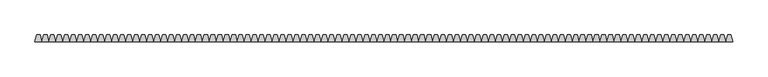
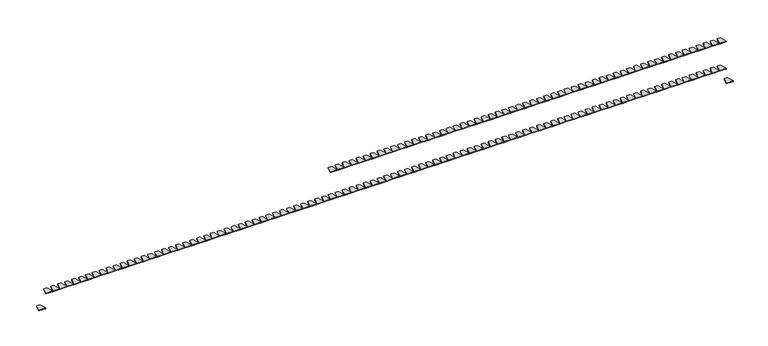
"""IFC4 building model written with IfcOpenShell, lengths in millimetres: duct fitting geometry, Частичная крышка шириной 40 мм - для кабель-канала DLP 65x195 - 2м - белый : 130мм."""

from ifc_helpers import new_model, si_unit, frame, origin, place, context, project, spatial, polyline, outline, extrude, source, transform, mapped, element, save


def duct_fitting_288de5a2(model_context):
    return source(origin(), model_context, "Body", "SweptSolid", [
        extrude(outline(polyline([(974.6410162, 20.0), (980.0, 0.0), (960.0, 0.0), (965.7349077, 20.0), (974.6410162, 20.0)])), frame((0.0, 0.0, -20.0), z_axis=(0.0, 0.0, 1.0), x_axis=(1.0, 0.0, 0.0)), (0.0, 0.0, 1.0), 2.0),
        extrude(outline(polyline([(954.6410162, 20.0), (960.0, 0.0), (940.0, 0.0), (945.7349077, 20.0), (954.6410162, 20.0)])), frame((0.0, 0.0, -20.0), z_axis=(0.0, 0.0, 1.0), x_axis=(1.0, 0.0, 0.0)), (0.0, 0.0, 1.0), 2.0),
        extrude(outline(polyline([(934.6410162, 20.0), (940.0, 0.0), (920.0, 0.0), (925.7349077, 20.0), (934.6410162, 20.0)])), frame((0.0, 0.0, -20.0), z_axis=(0.0, 0.0, 1.0), x_axis=(1.0, 0.0, 0.0)), (0.0, 0.0, 1.0), 2.0),
        extrude(outline(polyline([(914.6410162, 20.0), (920.0, 0.0), (900.0, 0.0), (905.7349077, 20.0), (914.6410162, 20.0)])), frame((0.0, 0.0, -20.0), z_axis=(0.0, 0.0, 1.0), x_axis=(1.0, 0.0, 0.0)), (0.0, 0.0, 1.0), 2.0),
        extrude(outline(polyline([(894.6410162, 20.0), (900.0, 0.0), (880.0, 0.0), (885.7349077, 20.0), (894.6410162, 20.0)])), frame((0.0, 0.0, -20.0), z_axis=(0.0, 0.0, 1.0), x_axis=(1.0, 0.0, 0.0)), (0.0, 0.0, 1.0), 2.0),
        extrude(outline(polyline([(874.6410162, 20.0), (880.0, 0.0), (860.0, 0.0), (865.7349077, 20.0), (874.6410162, 20.0)])), frame((0.0, 0.0, -20.0), z_axis=(0.0, 0.0, 1.0), x_axis=(1.0, 0.0, 0.0)), (0.0, 0.0, 1.0), 2.0),
        extrude(outline(polyline([(854.6410162, 20.0), (860.0, 0.0), (840.0, 0.0), (845.7349077, 20.0), (854.6410162, 20.0)])), frame((0.0, 0.0, -20.0), z_axis=(0.0, 0.0, 1.0), x_axis=(1.0, 0.0, 0.0)), (0.0, 0.0, 1.0), 2.0),
        extrude(outline(polyline([(834.6410162, 20.0), (840.0, 0.0), (820.0, 0.0), (825.7349077, 20.0), (834.6410162, 20.0)])), frame((0.0, 0.0, -20.0), z_axis=(0.0, 0.0, 1.0), x_axis=(1.0, 0.0, 0.0)), (0.0, 0.0, 1.0), 2.0),
        extrude(outline(polyline([(814.6410162, 20.0), (820.0, 0.0), (800.0, 0.0), (805.7349077, 20.0), (814.6410162, 20.0)])), frame((0.0, 0.0, -20.0), z_axis=(0.0, 0.0, 1.0), x_axis=(1.0, 0.0, 0.0)), (0.0, 0.0, 1.0), 2.0),
        extrude(outline(polyline([(794.6410162, 20.0), (800.0, 0.0), (780.0, 0.0), (785.7349077, 20.0), (794.6410162, 20.0)])), frame((0.0, 0.0, -20.0), z_axis=(0.0, 0.0, 1.0), x_axis=(1.0, 0.0, 0.0)), (0.0, 0.0, 1.0), 2.0),
        extrude(outline(polyline([(774.6410162, 20.0), (780.0, 0.0), (760.0, 0.0), (765.7349077, 20.0), (774.6410162, 20.0)])), frame((0.0, 0.0, -20.0), z_axis=(0.0, 0.0, 1.0), x_axis=(1.0, 0.0, 0.0)), (0.0, 0.0, 1.0), 2.0),
        extrude(outline(polyline([(754.6410162, 20.0), (760.0, 0.0), (740.0, 0.0), (745.7349077, 20.0), (754.6410162, 20.0)])), frame((0.0, 0.0, -20.0), z_axis=(0.0, 0.0, 1.0), x_axis=(1.0, 0.0, 0.0)), (0.0, 0.0, 1.0), 2.0),
        extrude(outline(polyline([(734.6410162, 20.0), (740.0, 0.0), (720.0, 0.0), (725.7349077, 20.0), (734.6410162, 20.0)])), frame((0.0, 0.0, -20.0), z_axis=(0.0, 0.0, 1.0), x_axis=(1.0, 0.0, 0.0)), (0.0, 0.0, 1.0), 2.0),
        extrude(outline(polyline([(714.6410162, 20.0), (720.0, 0.0), (700.0, 0.0), (705.7349077, 20.0), (714.6410162, 20.0)])), frame((0.0, 0.0, -20.0), z_axis=(0.0, 0.0, 1.0), x_axis=(1.0, 0.0, 0.0)), (0.0, 0.0, 1.0), 2.0),
        extrude(outline(polyline([(694.6410162, 20.0), (700.0, 0.0), (680.0, 0.0), (685.7349077, 20.0), (694.6410162, 20.0)])), frame((0.0, 0.0, -20.0), z_axis=(0.0, 0.0, 1.0), x_axis=(1.0, 0.0, 0.0)), (0.0, 0.0, 1.0), 2.0),
        extrude(outline(polyline([(674.6410162, 20.0), (680.0, 0.0), (660.0, 0.0), (665.7349077, 20.0), (674.6410162, 20.0)])), frame((0.0, 0.0, -20.0), z_axis=(0.0, 0.0, 1.0), x_axis=(1.0, 0.0, 0.0)), (0.0, 0.0, 1.0), 2.0),
        extrude(outline(polyline([(654.6410162, 20.0), (660.0, 0.0), (640.0, 0.0), (645.7349077, 20.0), (654.6410162, 20.0)])), frame((0.0, 0.0, -20.0), z_axis=(0.0, 0.0, 1.0), x_axis=(1.0, 0.0, 0.0)), (0.0, 0.0, 1.0), 2.0),
        extrude(outline(polyline([(634.6410162, 20.0), (640.0, 0.0), (620.0, 0.0), (625.7349077, 20.0), (634.6410162, 20.0)])), frame((0.0, 0.0, -20.0), z_axis=(0.0, 0.0, 1.0), x_axis=(1.0, 0.0, 0.0)), (0.0, 0.0, 1.0), 2.0),
        extrude(outline(polyline([(614.6410162, 20.0), (620.0, 0.0), (600.0, 0.0), (605.7349077, 20.0), (614.6410162, 20.0)])), frame((0.0, 0.0, -20.0), z_axis=(0.0, 0.0, 1.0), x_axis=(1.0, 0.0, 0.0)), (0.0, 0.0, 1.0), 2.0),
        extrude(outline(polyline([(594.6410162, 20.0), (600.0, 0.0), (580.0, 0.0), (585.7349077, 20.0), (594.6410162, 20.0)])), frame((0.0, 0.0, -20.0), z_axis=(0.0, 0.0, 1.0), x_axis=(1.0, 0.0, 0.0)), (0.0, 0.0, 1.0), 2.0),
        extrude(outline(polyline([(574.6410162, 20.0), (580.0, 0.0), (560.0, 0.0), (565.7349077, 20.0), (574.6410162, 20.0)])), frame((0.0, 0.0, -20.0), z_axis=(0.0, 0.0, 1.0), x_axis=(1.0, 0.0, 0.0)), (0.0, 0.0, 1.0), 2.0),
        extrude(outline(polyline([(554.6410162, 20.0), (560.0, 0.0), (540.0, 0.0), (545.7349077, 20.0), (554.6410162, 20.0)])), frame((0.0, 0.0, -20.0), z_axis=(0.0, 0.0, 1.0), x_axis=(1.0, 0.0, 0.0)), (0.0, 0.0, 1.0), 2.0),
        extrude(outline(polyline([(534.6410162, 20.0), (540.0, 0.0), (520.0, 0.0), (525.7349077, 20.0), (534.6410162, 20.0)])), frame((0.0, 0.0, -20.0), z_axis=(0.0, 0.0, 1.0), x_axis=(1.0, 0.0, 0.0)), (0.0, 0.0, 1.0), 2.0),
        extrude(outline(polyline([(514.6410162, 20.0), (520.0, 0.0), (500.0, 0.0), (505.7349077, 20.0), (514.6410162, 20.0)])), frame((0.0, 0.0, -20.0), z_axis=(0.0, 0.0, 1.0), x_axis=(1.0, 0.0, 0.0)), (0.0, 0.0, 1.0), 2.0),
        extrude(outline(polyline([(494.6410162, 20.0), (500.0, 0.0), (480.0, 0.0), (485.7349077, 20.0), (494.6410162, 20.0)])), frame((0.0, 0.0, -20.0), z_axis=(0.0, 0.0, 1.0), x_axis=(1.0, 0.0, 0.0)), (0.0, 0.0, 1.0), 2.0),
        extrude(outline(polyline([(474.6410162, 20.0), (480.0, 0.0), (460.0, 0.0), (465.7349077, 20.0), (474.6410162, 20.0)])), frame((0.0, 0.0, -20.0), z_axis=(0.0, 0.0, 1.0), x_axis=(1.0, 0.0, 0.0)), (0.0, 0.0, 1.0), 2.0),
        extrude(outline(polyline([(454.6410162, 20.0), (460.0, 0.0), (440.0, 0.0), (445.7349077, 20.0), (454.6410162, 20.0)])), frame((0.0, 0.0, -20.0), z_axis=(0.0, 0.0, 1.0), x_axis=(1.0, 0.0, 0.0)), (0.0, 0.0, 1.0), 2.0),
        extrude(outline(polyline([(434.6410162, 20.0), (440.0, 0.0), (420.0, 0.0), (425.7349077, 20.0), (434.6410162, 20.0)])), frame((0.0, 0.0, -20.0), z_axis=(0.0, 0.0, 1.0), x_axis=(1.0, 0.0, 0.0)), (0.0, 0.0, 1.0), 2.0),
        extrude(outline(polyline([(414.6410162, 20.0), (420.0, 0.0), (400.0, 0.0), (405.7349077, 20.0), (414.6410162, 20.0)])), frame((0.0, 0.0, -20.0), z_axis=(0.0, 0.0, 1.0), x_axis=(1.0, 0.0, 0.0)), (0.0, 0.0, 1.0), 2.0),
        extrude(outline(polyline([(394.6410162, 20.0), (400.0, 0.0), (380.0, 0.0), (385.7349077, 20.0), (394.6410162, 20.0)])), frame((0.0, 0.0, -20.0), z_axis=(0.0, 0.0, 1.0), x_axis=(1.0, 0.0, 0.0)), (0.0, 0.0, 1.0), 2.0),
        extrude(outline(polyline([(374.6410162, 20.0), (380.0, 0.0), (360.0, 0.0), (365.7349077, 20.0), (374.6410162, 20.0)])), frame((0.0, 0.0, -20.0), z_axis=(0.0, 0.0, 1.0), x_axis=(1.0, 0.0, 0.0)), (0.0, 0.0, 1.0), 2.0),
        extrude(outline(polyline([(354.6410162, 20.0), (360.0, 0.0), (340.0, 0.0), (345.7349077, 20.0), (354.6410162, 20.0)])), frame((0.0, 0.0, -20.0), z_axis=(0.0, 0.0, 1.0), x_axis=(1.0, 0.0, 0.0)), (0.0, 0.0, 1.0), 2.0),
        extrude(outline(polyline([(334.6410162, 20.0), (340.0, 0.0), (320.0, 0.0), (325.7349077, 20.0), (334.6410162, 20.0)])), frame((0.0, 0.0, -20.0), z_axis=(0.0, 0.0, 1.0), x_axis=(1.0, 0.0, 0.0)), (0.0, 0.0, 1.0), 2.0),
        extrude(outline(polyline([(314.6410162, 20.0), (320.0, 0.0), (300.0, 0.0), (305.7349077, 20.0), (314.6410162, 20.0)])), frame((0.0, 0.0, -20.0), z_axis=(0.0, 0.0, 1.0), x_axis=(1.0, 0.0, 0.0)), (0.0, 0.0, 1.0), 2.0),
        extrude(outline(polyline([(294.6410162, 20.0), (300.0, 0.0), (280.0, 0.0), (285.7349077, 20.0), (294.6410162, 20.0)])), frame((0.0, 0.0, -20.0), z_axis=(0.0, 0.0, 1.0), x_axis=(1.0, 0.0, 0.0)), (0.0, 0.0, 1.0), 2.0),
        extrude(outline(polyline([(274.6410162, 20.0), (280.0, 0.0), (260.0, 0.0), (265.7349077, 20.0), (274.6410162, 20.0)])), frame((0.0, 0.0, -20.0), z_axis=(0.0, 0.0, 1.0), x_axis=(1.0, 0.0, 0.0)), (0.0, 0.0, 1.0), 2.0),
        extrude(outline(polyline([(254.6410162, 20.0), (260.0, 0.0), (240.0, 0.0), (245.7349077, 20.0), (254.6410162, 20.0)])), frame((0.0, 0.0, -20.0), z_axis=(0.0, 0.0, 1.0), x_axis=(1.0, 0.0, 0.0)), (0.0, 0.0, 1.0), 2.0),
        extrude(outline(polyline([(234.6410162, 20.0), (240.0, 0.0), (220.0, 0.0), (225.7349077, 20.0), (234.6410162, 20.0)])), frame((0.0, 0.0, -20.0), z_axis=(0.0, 0.0, 1.0), x_axis=(1.0, 0.0, 0.0)), (0.0, 0.0, 1.0), 2.0),
        extrude(outline(polyline([(214.6410162, 20.0), (220.0, 0.0), (200.0, 0.0), (205.7349077, 20.0), (214.6410162, 20.0)])), frame((0.0, 0.0, -20.0), z_axis=(0.0, 0.0, 1.0), x_axis=(1.0, 0.0, 0.0)), (0.0, 0.0, 1.0), 2.0),
        extrude(outline(polyline([(194.6410162, 20.0), (200.0, 0.0), (180.0, 0.0), (185.7349077, 20.0), (194.6410162, 20.0)])), frame((0.0, 0.0, -20.0), z_axis=(0.0, 0.0, 1.0), x_axis=(1.0, 0.0, 0.0)), (0.0, 0.0, 1.0), 2.0),
        extrude(outline(polyline([(174.6410162, 20.0), (180.0, 0.0), (160.0, 0.0), (165.7349077, 20.0), (174.6410162, 20.0)])), frame((0.0, 0.0, -20.0), z_axis=(0.0, 0.0, 1.0), x_axis=(1.0, 0.0, 0.0)), (0.0, 0.0, 1.0), 2.0),
        extrude(outline(polyline([(154.6410162, 20.0), (160.0, 0.0), (140.0, 0.0), (145.7349077, 20.0), (154.6410162, 20.0)])), frame((0.0, 0.0, -20.0), z_axis=(0.0, 0.0, 1.0), x_axis=(1.0, 0.0, 0.0)), (0.0, 0.0, 1.0), 2.0),
        extrude(outline(polyline([(134.6410162, 20.0), (140.0, 0.0), (120.0, 0.0), (125.7349077, 20.0), (134.6410162, 20.0)])), frame((0.0, 0.0, -20.0), z_axis=(0.0, 0.0, 1.0), x_axis=(1.0, 0.0, 0.0)), (0.0, 0.0, 1.0), 2.0),
        extrude(outline(polyline([(114.6410162, 20.0), (120.0, 0.0), (100.0, 0.0), (105.7349077, 20.0), (114.6410162, 20.0)])), frame((0.0, 0.0, -20.0), z_axis=(0.0, 0.0, 1.0), x_axis=(1.0, 0.0, 0.0)), (0.0, 0.0, 1.0), 2.0),
        extrude(outline(polyline([(94.6410162, 20.0), (100.0, 0.0), (80.0, 0.0), (85.7349077, 20.0), (94.6410162, 20.0)])), frame((0.0, 0.0, -20.0), z_axis=(0.0, 0.0, 1.0), x_axis=(1.0, 0.0, 0.0)), (0.0, 0.0, 1.0), 2.0),
        extrude(outline(polyline([(74.6410162, 20.0), (80.0, 0.0), (60.0, 0.0), (65.7349077, 20.0), (74.6410162, 20.0)])), frame((0.0, 0.0, -20.0), z_axis=(0.0, 0.0, 1.0), x_axis=(1.0, 0.0, 0.0)), (0.0, 0.0, 1.0), 2.0),
        extrude(outline(polyline([(54.6410162, 20.0), (60.0, 0.0), (40.0, 0.0), (45.7349077, 20.0), (54.6410162, 20.0)])), frame((0.0, 0.0, -20.0), z_axis=(0.0, 0.0, 1.0), x_axis=(1.0, 0.0, 0.0)), (0.0, 0.0, 1.0), 2.0),
        extrude(outline(polyline([(34.6410162, 20.0), (40.0, 0.0), (20.0, 0.0), (25.7349077, 20.0), (34.6410162, 20.0)])), frame((0.0, 0.0, -20.0), z_axis=(0.0, 0.0, 1.0), x_axis=(1.0, 0.0, 0.0)), (0.0, 0.0, 1.0), 2.0),
        extrude(outline(polyline([(14.6410162, 20.0), (20.0, 0.0), (0.0, 0.0), (5.7349077, 20.0), (14.6410162, 20.0)])), frame((0.0, 0.0, -20.0), z_axis=(0.0, 0.0, 1.0), x_axis=(1.0, 0.0, 0.0)), (0.0, 0.0, 1.0), 2.0),
        extrude(outline(polyline([(-5.3589838, 20.0), (0.0, 0.0), (-20.0, 0.0), (-14.2650923, 20.0), (-5.3589838, 20.0)])), frame((0.0, 0.0, -20.0), z_axis=(0.0, 0.0, 1.0), x_axis=(1.0, 0.0, 0.0)), (0.0, 0.0, 1.0), 2.0),
        extrude(outline(polyline([(-25.3589838, 20.0), (-20.0, 0.0), (-40.0, 0.0), (-34.2650923, 20.0), (-25.3589838, 20.0)])), frame((0.0, 0.0, -20.0), z_axis=(0.0, 0.0, 1.0), x_axis=(1.0, 0.0, 0.0)), (0.0, 0.0, 1.0), 2.0),
        extrude(outline(polyline([(-45.3589838, 20.0), (-40.0, 0.0), (-60.0, 0.0), (-54.2650923, 20.0), (-45.3589838, 20.0)])), frame((0.0, 0.0, -20.0), z_axis=(0.0, 0.0, 1.0), x_axis=(1.0, 0.0, 0.0)), (0.0, 0.0, 1.0), 2.0),
        extrude(outline(polyline([(-65.3589838, 20.0), (-60.0, 0.0), (-80.0, 0.0), (-74.2650923, 20.0), (-65.3589838, 20.0)])), frame((0.0, 0.0, -20.0), z_axis=(0.0, 0.0, 1.0), x_axis=(1.0, 0.0, 0.0)), (0.0, 0.0, 1.0), 2.0),
        extrude(outline(polyline([(-85.3589838, 20.0), (-80.0, 0.0), (-100.0, 0.0), (-94.2650923, 20.0), (-85.3589838, 20.0)])), frame((0.0, 0.0, -20.0), z_axis=(0.0, 0.0, 1.0), x_axis=(1.0, 0.0, 0.0)), (0.0, 0.0, 1.0), 2.0),
        extrude(outline(polyline([(-105.3589838, 20.0), (-100.0, 0.0), (-120.0, 0.0), (-114.2650923, 20.0), (-105.3589838, 20.0)])), frame((0.0, 0.0, -20.0), z_axis=(0.0, 0.0, 1.0), x_axis=(1.0, 0.0, 0.0)), (0.0, 0.0, 1.0), 2.0),
        extrude(outline(polyline([(-125.3589838, 20.0), (-120.0, 0.0), (-140.0, 0.0), (-134.2650923, 20.0), (-125.3589838, 20.0)])), frame((0.0, 0.0, -20.0), z_axis=(0.0, 0.0, 1.0), x_axis=(1.0, 0.0, 0.0)), (0.0, 0.0, 1.0), 2.0),
        extrude(outline(polyline([(-145.3589838, 20.0), (-140.0, 0.0), (-160.0, 0.0), (-154.2650923, 20.0), (-145.3589838, 20.0)])), frame((0.0, 0.0, -20.0), z_axis=(0.0, 0.0, 1.0), x_axis=(1.0, 0.0, 0.0)), (0.0, 0.0, 1.0), 2.0),
        extrude(outline(polyline([(-165.3589838, 20.0), (-160.0, 0.0), (-180.0, 0.0), (-174.2650923, 20.0), (-165.3589838, 20.0)])), frame((0.0, 0.0, -20.0), z_axis=(0.0, 0.0, 1.0), x_axis=(1.0, 0.0, 0.0)), (0.0, 0.0, 1.0), 2.0),
        extrude(outline(polyline([(-185.3589838, 20.0), (-180.0, 0.0), (-200.0, 0.0), (-194.2650923, 20.0), (-185.3589838, 20.0)])), frame((0.0, 0.0, -20.0), z_axis=(0.0, 0.0, 1.0), x_axis=(1.0, 0.0, 0.0)), (0.0, 0.0, 1.0), 2.0),
        extrude(outline(polyline([(-205.3589838, 20.0), (-200.0, 0.0), (-220.0, 0.0), (-214.2650923, 20.0), (-205.3589838, 20.0)])), frame((0.0, 0.0, -20.0), z_axis=(0.0, 0.0, 1.0), x_axis=(1.0, 0.0, 0.0)), (0.0, 0.0, 1.0), 2.0),
        extrude(outline(polyline([(-225.3589838, 20.0), (-220.0, 0.0), (-240.0, 0.0), (-234.2650923, 20.0), (-225.3589838, 20.0)])), frame((0.0, 0.0, -20.0), z_axis=(0.0, 0.0, 1.0), x_axis=(1.0, 0.0, 0.0)), (0.0, 0.0, 1.0), 2.0),
        extrude(outline(polyline([(-245.3589838, 20.0), (-240.0, 0.0), (-260.0, 0.0), (-254.2650923, 20.0), (-245.3589838, 20.0)])), frame((0.0, 0.0, -20.0), z_axis=(0.0, 0.0, 1.0), x_axis=(1.0, 0.0, 0.0)), (0.0, 0.0, 1.0), 2.0),
        extrude(outline(polyline([(-265.3589838, 20.0), (-260.0, 0.0), (-280.0, 0.0), (-274.2650923, 20.0), (-265.3589838, 20.0)])), frame((0.0, 0.0, -20.0), z_axis=(0.0, 0.0, 1.0), x_axis=(1.0, 0.0, 0.0)), (0.0, 0.0, 1.0), 2.0),
        extrude(outline(polyline([(-285.3589838, 20.0), (-280.0, 0.0), (-300.0, 0.0), (-294.2650923, 20.0), (-285.3589838, 20.0)])), frame((0.0, 0.0, -20.0), z_axis=(0.0, 0.0, 1.0), x_axis=(1.0, 0.0, 0.0)), (0.0, 0.0, 1.0), 2.0),
        extrude(outline(polyline([(-305.3589838, 20.0), (-300.0, 0.0), (-320.0, 0.0), (-314.2650923, 20.0), (-305.3589838, 20.0)])), frame((0.0, 0.0, -20.0), z_axis=(0.0, 0.0, 1.0), x_axis=(1.0, 0.0, 0.0)), (0.0, 0.0, 1.0), 2.0),
        extrude(outline(polyline([(-325.3589838, 20.0), (-320.0, 0.0), (-340.0, 0.0), (-334.2650923, 20.0), (-325.3589838, 20.0)])), frame((0.0, 0.0, -20.0), z_axis=(0.0, 0.0, 1.0), x_axis=(1.0, 0.0, 0.0)), (0.0, 0.0, 1.0), 2.0),
        extrude(outline(polyline([(-345.3589838, 20.0), (-340.0, 0.0), (-360.0, 0.0), (-354.2650923, 20.0), (-345.3589838, 20.0)])), frame((0.0, 0.0, -20.0), z_axis=(0.0, 0.0, 1.0), x_axis=(1.0, 0.0, 0.0)), (0.0, 0.0, 1.0), 2.0),
        extrude(outline(polyline([(-365.3589838, 20.0), (-360.0, 0.0), (-380.0, 0.0), (-374.2650923, 20.0), (-365.3589838, 20.0)])), frame((0.0, 0.0, -20.0), z_axis=(0.0, 0.0, 1.0), x_axis=(1.0, 0.0, 0.0)), (0.0, 0.0, 1.0), 2.0),
        extrude(outline(polyline([(-385.3589838, 20.0), (-380.0, 0.0), (-400.0, 0.0), (-394.2650923, 20.0), (-385.3589838, 20.0)])), frame((0.0, 0.0, -20.0), z_axis=(0.0, 0.0, 1.0), x_axis=(1.0, 0.0, 0.0)), (0.0, 0.0, 1.0), 2.0),
        extrude(outline(polyline([(-405.3589838, 20.0), (-400.0, 0.0), (-420.0, 0.0), (-414.2650923, 20.0), (-405.3589838, 20.0)])), frame((0.0, 0.0, -20.0), z_axis=(0.0, 0.0, 1.0), x_axis=(1.0, 0.0, 0.0)), (0.0, 0.0, 1.0), 2.0),
        extrude(outline(polyline([(-425.3589838, 20.0), (-420.0, 0.0), (-440.0, 0.0), (-434.2650923, 20.0), (-425.3589838, 20.0)])), frame((0.0, 0.0, -20.0), z_axis=(0.0, 0.0, 1.0), x_axis=(1.0, 0.0, 0.0)), (0.0, 0.0, 1.0), 2.0),
        extrude(outline(polyline([(-445.3589838, 20.0), (-440.0, 0.0), (-460.0, 0.0), (-454.2650923, 20.0), (-445.3589838, 20.0)])), frame((0.0, 0.0, -20.0), z_axis=(0.0, 0.0, 1.0), x_axis=(1.0, 0.0, 0.0)), (0.0, 0.0, 1.0), 2.0),
        extrude(outline(polyline([(-465.3589838, 20.0), (-460.0, 0.0), (-480.0, 0.0), (-474.2650923, 20.0), (-465.3589838, 20.0)])), frame((0.0, 0.0, -20.0), z_axis=(0.0, 0.0, 1.0), x_axis=(1.0, 0.0, 0.0)), (0.0, 0.0, 1.0), 2.0),
        extrude(outline(polyline([(-485.3589838, 20.0), (-480.0, 0.0), (-500.0, 0.0), (-494.2650923, 20.0), (-485.3589838, 20.0)])), frame((0.0, 0.0, -20.0), z_axis=(0.0, 0.0, 1.0), x_axis=(1.0, 0.0, 0.0)), (0.0, 0.0, 1.0), 2.0),
        extrude(outline(polyline([(-505.3589838, 20.0), (-500.0, 0.0), (-520.0, 0.0), (-514.2650923, 20.0), (-505.3589838, 20.0)])), frame((0.0, 0.0, -20.0), z_axis=(0.0, 0.0, 1.0), x_axis=(1.0, 0.0, 0.0)), (0.0, 0.0, 1.0), 2.0),
        extrude(outline(polyline([(-525.3589838, 20.0), (-520.0, 0.0), (-540.0, 0.0), (-534.2650923, 20.0), (-525.3589838, 20.0)])), frame((0.0, 0.0, -20.0), z_axis=(0.0, 0.0, 1.0), x_axis=(1.0, 0.0, 0.0)), (0.0, 0.0, 1.0), 2.0),
        extrude(outline(polyline([(-545.3589838, 20.0), (-540.0, 0.0), (-560.0, 0.0), (-554.2650923, 20.0), (-545.3589838, 20.0)])), frame((0.0, 0.0, -20.0), z_axis=(0.0, 0.0, 1.0), x_axis=(1.0, 0.0, 0.0)), (0.0, 0.0, 1.0), 2.0),
        extrude(outline(polyline([(-565.3589838, 20.0), (-560.0, 0.0), (-580.0, 0.0), (-574.2650923, 20.0), (-565.3589838, 20.0)])), frame((0.0, 0.0, -20.0), z_axis=(0.0, 0.0, 1.0), x_axis=(1.0, 0.0, 0.0)), (0.0, 0.0, 1.0), 2.0),
        extrude(outline(polyline([(-585.3589838, 20.0), (-580.0, 0.0), (-600.0, 0.0), (-594.2650923, 20.0), (-585.3589838, 20.0)])), frame((0.0, 0.0, -20.0), z_axis=(0.0, 0.0, 1.0), x_axis=(1.0, 0.0, 0.0)), (0.0, 0.0, 1.0), 2.0),
        extrude(outline(polyline([(-605.3589838, 20.0), (-600.0, 0.0), (-620.0, 0.0), (-614.2650923, 20.0), (-605.3589838, 20.0)])), frame((0.0, 0.0, -20.0), z_axis=(0.0, 0.0, 1.0), x_axis=(1.0, 0.0, 0.0)), (0.0, 0.0, 1.0), 2.0),
        extrude(outline(polyline([(-625.3589838, 20.0), (-620.0, 0.0), (-640.0, 0.0), (-634.2650923, 20.0), (-625.3589838, 20.0)])), frame((0.0, 0.0, -20.0), z_axis=(0.0, 0.0, 1.0), x_axis=(1.0, 0.0, 0.0)), (0.0, 0.0, 1.0), 2.0),
        extrude(outline(polyline([(-645.3589838, 20.0), (-640.0, 0.0), (-660.0, 0.0), (-654.2650923, 20.0), (-645.3589838, 20.0)])), frame((0.0, 0.0, -20.0), z_axis=(0.0, 0.0, 1.0), x_axis=(1.0, 0.0, 0.0)), (0.0, 0.0, 1.0), 2.0),
        extrude(outline(polyline([(-665.3589838, 20.0), (-660.0, 0.0), (-680.0, 0.0), (-674.2650923, 20.0), (-665.3589838, 20.0)])), frame((0.0, 0.0, -20.0), z_axis=(0.0, 0.0, 1.0), x_axis=(1.0, 0.0, 0.0)), (0.0, 0.0, 1.0), 2.0),
        extrude(outline(polyline([(-685.3589838, 20.0), (-680.0, 0.0), (-700.0, 0.0), (-694.2650923, 20.0), (-685.3589838, 20.0)])), frame((0.0, 0.0, -20.0), z_axis=(0.0, 0.0, 1.0), x_axis=(1.0, 0.0, 0.0)), (0.0, 0.0, 1.0), 2.0),
        extrude(outline(polyline([(-705.3589838, 20.0), (-700.0, 0.0), (-720.0, 0.0), (-714.2650923, 20.0), (-705.3589838, 20.0)])), frame((0.0, 0.0, -20.0), z_axis=(0.0, 0.0, 1.0), x_axis=(1.0, 0.0, 0.0)), (0.0, 0.0, 1.0), 2.0),
        extrude(outline(polyline([(-725.3589838, 20.0), (-720.0, 0.0), (-740.0, 0.0), (-734.2650923, 20.0), (-725.3589838, 20.0)])), frame((0.0, 0.0, -20.0), z_axis=(0.0, 0.0, 1.0), x_axis=(1.0, 0.0, 0.0)), (0.0, 0.0, 1.0), 2.0),
        extrude(outline(polyline([(-745.3589838, 20.0), (-740.0, 0.0), (-760.0, 0.0), (-754.2650923, 20.0), (-745.3589838, 20.0)])), frame((0.0, 0.0, -20.0), z_axis=(0.0, 0.0, 1.0), x_axis=(1.0, 0.0, 0.0)), (0.0, 0.0, 1.0), 2.0),
        extrude(outline(polyline([(-765.3589838, 20.0), (-760.0, 0.0), (-780.0, 0.0), (-774.2650923, 20.0), (-765.3589838, 20.0)])), frame((0.0, 0.0, -20.0), z_axis=(0.0, 0.0, 1.0), x_axis=(1.0, 0.0, 0.0)), (0.0, 0.0, 1.0), 2.0),
        extrude(outline(polyline([(-785.3589838, 20.0), (-780.0, 0.0), (-800.0, 0.0), (-794.2650923, 20.0), (-785.3589838, 20.0)])), frame((0.0, 0.0, -20.0), z_axis=(0.0, 0.0, 1.0), x_axis=(1.0, 0.0, 0.0)), (0.0, 0.0, 1.0), 2.0),
        extrude(outline(polyline([(-805.3589838, 20.0), (-800.0, 0.0), (-820.0, 0.0), (-814.2650923, 20.0), (-805.3589838, 20.0)])), frame((0.0, 0.0, -20.0), z_axis=(0.0, 0.0, 1.0), x_axis=(1.0, 0.0, 0.0)), (0.0, 0.0, 1.0), 2.0),
        extrude(outline(polyline([(-825.3589838, 20.0), (-820.0, 0.0), (-840.0, 0.0), (-834.2650923, 20.0), (-825.3589838, 20.0)])), frame((0.0, 0.0, -20.0), z_axis=(0.0, 0.0, 1.0), x_axis=(1.0, 0.0, 0.0)), (0.0, 0.0, 1.0), 2.0),
        extrude(outline(polyline([(-845.3589838, 20.0), (-840.0, 0.0), (-860.0, 0.0), (-854.2650923, 20.0), (-845.3589838, 20.0)])), frame((0.0, 0.0, -20.0), z_axis=(0.0, 0.0, 1.0), x_axis=(1.0, 0.0, 0.0)), (0.0, 0.0, 1.0), 2.0),
        extrude(outline(polyline([(-865.3589838, 20.0), (-860.0, 0.0), (-880.0, 0.0), (-874.2650923, 20.0), (-865.3589838, 20.0)])), frame((0.0, 0.0, -20.0), z_axis=(0.0, 0.0, 1.0), x_axis=(1.0, 0.0, 0.0)), (0.0, 0.0, 1.0), 2.0),
        extrude(outline(polyline([(-885.3589838, 20.0), (-880.0, 0.0), (-900.0, 0.0), (-894.2650923, 20.0), (-885.3589838, 20.0)])), frame((0.0, 0.0, -20.0), z_axis=(0.0, 0.0, 1.0), x_axis=(1.0, 0.0, 0.0)), (0.0, 0.0, 1.0), 2.0),
        extrude(outline(polyline([(-905.3589838, 20.0), (-900.0, 0.0), (-920.0, 0.0), (-914.2650923, 20.0), (-905.3589838, 20.0)])), frame((0.0, 0.0, -20.0), z_axis=(0.0, 0.0, 1.0), x_axis=(1.0, 0.0, 0.0)), (0.0, 0.0, 1.0), 2.0),
        extrude(outline(polyline([(-925.3589838, 20.0), (-920.0, 0.0), (-940.0, 0.0), (-934.2650923, 20.0), (-925.3589838, 20.0)])), frame((0.0, 0.0, -20.0), z_axis=(0.0, 0.0, 1.0), x_axis=(1.0, 0.0, 0.0)), (0.0, 0.0, 1.0), 2.0),
        extrude(outline(polyline([(-945.3589838, 20.0), (-940.0, 0.0), (-960.0, 0.0), (-954.2650923, 20.0), (-945.3589838, 20.0)])), frame((0.0, 0.0, -20.0), z_axis=(0.0, 0.0, 1.0), x_axis=(1.0, 0.0, 0.0)), (0.0, 0.0, 1.0), 2.0),
        extrude(outline(polyline([(-965.3589838, 20.0), (-960.0, 0.0), (-980.0, 0.0), (-974.2650923, 20.0), (-965.3589838, 20.0)])), frame((0.0, 0.0, -20.0), z_axis=(0.0, 0.0, 1.0), x_axis=(1.0, 0.0, 0.0)), (0.0, 0.0, 1.0), 2.0),
        extrude(outline(polyline([(994.6410162, 20.0), (1000.0, 0.0), (980.0, 0.0), (985.7349077, 20.0), (994.6410162, 20.0)])), frame((0.0, 0.0, -65.0), z_axis=(0.0, 0.0, 1.0), x_axis=(1.0, 0.0, 0.0)), (0.0, 0.0, 1.0), 2.0),
        extrude(outline(polyline([(-985.3589838, 20.0), (-980.0, 0.0), (-1000.0, 0.0), (-994.2650923, 20.0), (-985.3589838, 20.0)])), frame((0.0, 0.0, -65.0), z_axis=(0.0, 0.0, 1.0), x_axis=(1.0, 0.0, 0.0)), (0.0, 0.0, 1.0), 2.0),
        extrude(outline(polyline([(974.6410162, 20.0), (980.0, 0.0), (960.0, 0.0), (965.7349077, 20.0), (974.6410162, 20.0)])), frame((0.0, 0.0, 63.0), z_axis=(0.0, 0.0, 1.0), x_axis=(1.0, 0.0, 0.0)), (0.0, 0.0, 1.0), 2.0),
        extrude(outline(polyline([(954.6410162, 20.0), (960.0, 0.0), (940.0, 0.0), (945.7349077, 20.0), (954.6410162, 20.0)])), frame((0.0, 0.0, 63.0), z_axis=(0.0, 0.0, 1.0), x_axis=(1.0, 0.0, 0.0)), (0.0, 0.0, 1.0), 2.0),
        extrude(outline(polyline([(934.6410162, 20.0), (940.0, 0.0), (920.0, 0.0), (925.7349077, 20.0), (934.6410162, 20.0)])), frame((0.0, 0.0, 63.0), z_axis=(0.0, 0.0, 1.0), x_axis=(1.0, 0.0, 0.0)), (0.0, 0.0, 1.0), 2.0),
        extrude(outline(polyline([(914.6410162, 20.0), (920.0, 0.0), (900.0, 0.0), (905.7349077, 20.0), (914.6410162, 20.0)])), frame((0.0, 0.0, 63.0), z_axis=(0.0, 0.0, 1.0), x_axis=(1.0, 0.0, 0.0)), (0.0, 0.0, 1.0), 2.0),
        extrude(outline(polyline([(894.6410162, 20.0), (900.0, 0.0), (880.0, 0.0), (885.7349077, 20.0), (894.6410162, 20.0)])), frame((0.0, 0.0, 63.0), z_axis=(0.0, 0.0, 1.0), x_axis=(1.0, 0.0, 0.0)), (0.0, 0.0, 1.0), 2.0),
        extrude(outline(polyline([(874.6410162, 20.0), (880.0, 0.0), (860.0, 0.0), (865.7349077, 20.0), (874.6410162, 20.0)])), frame((0.0, 0.0, 63.0), z_axis=(0.0, 0.0, 1.0), x_axis=(1.0, 0.0, 0.0)), (0.0, 0.0, 1.0), 2.0),
        extrude(outline(polyline([(854.6410162, 20.0), (860.0, 0.0), (840.0, 0.0), (845.7349077, 20.0), (854.6410162, 20.0)])), frame((0.0, 0.0, 63.0), z_axis=(0.0, 0.0, 1.0), x_axis=(1.0, 0.0, 0.0)), (0.0, 0.0, 1.0), 2.0),
        extrude(outline(polyline([(834.6410162, 20.0), (840.0, 0.0), (820.0, 0.0), (825.7349077, 20.0), (834.6410162, 20.0)])), frame((0.0, 0.0, 63.0), z_axis=(0.0, 0.0, 1.0), x_axis=(1.0, 0.0, 0.0)), (0.0, 0.0, 1.0), 2.0),
        extrude(outline(polyline([(814.6410162, 20.0), (820.0, 0.0), (800.0, 0.0), (805.7349077, 20.0), (814.6410162, 20.0)])), frame((0.0, 0.0, 63.0), z_axis=(0.0, 0.0, 1.0), x_axis=(1.0, 0.0, 0.0)), (0.0, 0.0, 1.0), 2.0),
        extrude(outline(polyline([(794.6410162, 20.0), (800.0, 0.0), (780.0, 0.0), (785.7349077, 20.0), (794.6410162, 20.0)])), frame((0.0, 0.0, 63.0), z_axis=(0.0, 0.0, 1.0), x_axis=(1.0, 0.0, 0.0)), (0.0, 0.0, 1.0), 2.0),
        extrude(outline(polyline([(774.6410162, 20.0), (780.0, 0.0), (760.0, 0.0), (765.7349077, 20.0), (774.6410162, 20.0)])), frame((0.0, 0.0, 63.0), z_axis=(0.0, 0.0, 1.0), x_axis=(1.0, 0.0, 0.0)), (0.0, 0.0, 1.0), 2.0),
        extrude(outline(polyline([(754.6410162, 20.0), (760.0, 0.0), (740.0, 0.0), (745.7349077, 20.0), (754.6410162, 20.0)])), frame((0.0, 0.0, 63.0), z_axis=(0.0, 0.0, 1.0), x_axis=(1.0, 0.0, 0.0)), (0.0, 0.0, 1.0), 2.0),
        extrude(outline(polyline([(734.6410162, 20.0), (740.0, 0.0), (720.0, 0.0), (725.7349077, 20.0), (734.6410162, 20.0)])), frame((0.0, 0.0, 63.0), z_axis=(0.0, 0.0, 1.0), x_axis=(1.0, 0.0, 0.0)), (0.0, 0.0, 1.0), 2.0),
        extrude(outline(polyline([(714.6410162, 20.0), (720.0, 0.0), (700.0, 0.0), (705.7349077, 20.0), (714.6410162, 20.0)])), frame((0.0, 0.0, 63.0), z_axis=(0.0, 0.0, 1.0), x_axis=(1.0, 0.0, 0.0)), (0.0, 0.0, 1.0), 2.0),
        extrude(outline(polyline([(694.6410162, 20.0), (700.0, 0.0), (680.0, 0.0), (685.7349077, 20.0), (694.6410162, 20.0)])), frame((0.0, 0.0, 63.0), z_axis=(0.0, 0.0, 1.0), x_axis=(1.0, 0.0, 0.0)), (0.0, 0.0, 1.0), 2.0),
        extrude(outline(polyline([(674.6410162, 20.0), (680.0, 0.0), (660.0, 0.0), (665.7349077, 20.0), (674.6410162, 20.0)])), frame((0.0, 0.0, 63.0), z_axis=(0.0, 0.0, 1.0), x_axis=(1.0, 0.0, 0.0)), (0.0, 0.0, 1.0), 2.0),
        extrude(outline(polyline([(654.6410162, 20.0), (660.0, 0.0), (640.0, 0.0), (645.7349077, 20.0), (654.6410162, 20.0)])), frame((0.0, 0.0, 63.0), z_axis=(0.0, 0.0, 1.0), x_axis=(1.0, 0.0, 0.0)), (0.0, 0.0, 1.0), 2.0),
        extrude(outline(polyline([(634.6410162, 20.0), (640.0, 0.0), (620.0, 0.0), (625.7349077, 20.0), (634.6410162, 20.0)])), frame((0.0, 0.0, 63.0), z_axis=(0.0, 0.0, 1.0), x_axis=(1.0, 0.0, 0.0)), (0.0, 0.0, 1.0), 2.0),
        extrude(outline(polyline([(614.6410162, 20.0), (620.0, 0.0), (600.0, 0.0), (605.7349077, 20.0), (614.6410162, 20.0)])), frame((0.0, 0.0, 63.0), z_axis=(0.0, 0.0, 1.0), x_axis=(1.0, 0.0, 0.0)), (0.0, 0.0, 1.0), 2.0),
        extrude(outline(polyline([(594.6410162, 20.0), (600.0, 0.0), (580.0, 0.0), (585.7349077, 20.0), (594.6410162, 20.0)])), frame((0.0, 0.0, 63.0), z_axis=(0.0, 0.0, 1.0), x_axis=(1.0, 0.0, 0.0)), (0.0, 0.0, 1.0), 2.0),
        extrude(outline(polyline([(574.6410162, 20.0), (580.0, 0.0), (560.0, 0.0), (565.7349077, 20.0), (574.6410162, 20.0)])), frame((0.0, 0.0, 63.0), z_axis=(0.0, 0.0, 1.0), x_axis=(1.0, 0.0, 0.0)), (0.0, 0.0, 1.0), 2.0),
        extrude(outline(polyline([(554.6410162, 20.0), (560.0, 0.0), (540.0, 0.0), (545.7349077, 20.0), (554.6410162, 20.0)])), frame((0.0, 0.0, 63.0), z_axis=(0.0, 0.0, 1.0), x_axis=(1.0, 0.0, 0.0)), (0.0, 0.0, 1.0), 2.0),
        extrude(outline(polyline([(534.6410162, 20.0), (540.0, 0.0), (520.0, 0.0), (525.7349077, 20.0), (534.6410162, 20.0)])), frame((0.0, 0.0, 63.0), z_axis=(0.0, 0.0, 1.0), x_axis=(1.0, 0.0, 0.0)), (0.0, 0.0, 1.0), 2.0),
        extrude(outline(polyline([(514.6410162, 20.0), (520.0, 0.0), (500.0, 0.0), (505.7349077, 20.0), (514.6410162, 20.0)])), frame((0.0, 0.0, 63.0), z_axis=(0.0, 0.0, 1.0), x_axis=(1.0, 0.0, 0.0)), (0.0, 0.0, 1.0), 2.0),
        extrude(outline(polyline([(494.6410162, 20.0), (500.0, 0.0), (480.0, 0.0), (485.7349077, 20.0), (494.6410162, 20.0)])), frame((0.0, 0.0, 63.0), z_axis=(0.0, 0.0, 1.0), x_axis=(1.0, 0.0, 0.0)), (0.0, 0.0, 1.0), 2.0),
        extrude(outline(polyline([(474.6410162, 20.0), (480.0, 0.0), (460.0, 0.0), (465.7349077, 20.0), (474.6410162, 20.0)])), frame((0.0, 0.0, 63.0), z_axis=(0.0, 0.0, 1.0), x_axis=(1.0, 0.0, 0.0)), (0.0, 0.0, 1.0), 2.0),
        extrude(outline(polyline([(454.6410162, 20.0), (460.0, 0.0), (440.0, 0.0), (445.7349077, 20.0), (454.6410162, 20.0)])), frame((0.0, 0.0, 63.0), z_axis=(0.0, 0.0, 1.0), x_axis=(1.0, 0.0, 0.0)), (0.0, 0.0, 1.0), 2.0),
        extrude(outline(polyline([(434.6410162, 20.0), (440.0, 0.0), (420.0, 0.0), (425.7349077, 20.0), (434.6410162, 20.0)])), frame((0.0, 0.0, 63.0), z_axis=(0.0, 0.0, 1.0), x_axis=(1.0, 0.0, 0.0)), (0.0, 0.0, 1.0), 2.0),
        extrude(outline(polyline([(414.6410162, 20.0), (420.0, 0.0), (400.0, 0.0), (405.7349077, 20.0), (414.6410162, 20.0)])), frame((0.0, 0.0, 63.0), z_axis=(0.0, 0.0, 1.0), x_axis=(1.0, 0.0, 0.0)), (0.0, 0.0, 1.0), 2.0),
        extrude(outline(polyline([(394.6410162, 20.0), (400.0, 0.0), (380.0, 0.0), (385.7349077, 20.0), (394.6410162, 20.0)])), frame((0.0, 0.0, 63.0), z_axis=(0.0, 0.0, 1.0), x_axis=(1.0, 0.0, 0.0)), (0.0, 0.0, 1.0), 2.0),
        extrude(outline(polyline([(374.6410162, 20.0), (380.0, 0.0), (360.0, 0.0), (365.7349077, 20.0), (374.6410162, 20.0)])), frame((0.0, 0.0, 63.0), z_axis=(0.0, 0.0, 1.0), x_axis=(1.0, 0.0, 0.0)), (0.0, 0.0, 1.0), 2.0),
        extrude(outline(polyline([(354.6410162, 20.0), (360.0, 0.0), (340.0, 0.0), (345.7349077, 20.0), (354.6410162, 20.0)])), frame((0.0, 0.0, 63.0), z_axis=(0.0, 0.0, 1.0), x_axis=(1.0, 0.0, 0.0)), (0.0, 0.0, 1.0), 2.0),
        extrude(outline(polyline([(334.6410162, 20.0), (340.0, 0.0), (320.0, 0.0), (325.7349077, 20.0), (334.6410162, 20.0)])), frame((0.0, 0.0, 63.0), z_axis=(0.0, 0.0, 1.0), x_axis=(1.0, 0.0, 0.0)), (0.0, 0.0, 1.0), 2.0),
        extrude(outline(polyline([(314.6410162, 20.0), (320.0, 0.0), (300.0, 0.0), (305.7349077, 20.0), (314.6410162, 20.0)])), frame((0.0, 0.0, 63.0), z_axis=(0.0, 0.0, 1.0), x_axis=(1.0, 0.0, 0.0)), (0.0, 0.0, 1.0), 2.0),
        extrude(outline(polyline([(294.6410162, 20.0), (300.0, 0.0), (280.0, 0.0), (285.7349077, 20.0), (294.6410162, 20.0)])), frame((0.0, 0.0, 63.0), z_axis=(0.0, 0.0, 1.0), x_axis=(1.0, 0.0, 0.0)), (0.0, 0.0, 1.0), 2.0),
        extrude(outline(polyline([(274.6410162, 20.0), (280.0, 0.0), (260.0, 0.0), (265.7349077, 20.0), (274.6410162, 20.0)])), frame((0.0, 0.0, 63.0), z_axis=(0.0, 0.0, 1.0), x_axis=(1.0, 0.0, 0.0)), (0.0, 0.0, 1.0), 2.0),
        extrude(outline(polyline([(254.6410162, 20.0), (260.0, 0.0), (240.0, 0.0), (245.7349077, 20.0), (254.6410162, 20.0)])), frame((0.0, 0.0, 63.0), z_axis=(0.0, 0.0, 1.0), x_axis=(1.0, 0.0, 0.0)), (0.0, 0.0, 1.0), 2.0),
        extrude(outline(polyline([(234.6410162, 20.0), (240.0, 0.0), (220.0, 0.0), (225.7349077, 20.0), (234.6410162, 20.0)])), frame((0.0, 0.0, 63.0), z_axis=(0.0, 0.0, 1.0), x_axis=(1.0, 0.0, 0.0)), (0.0, 0.0, 1.0), 2.0),
        extrude(outline(polyline([(214.6410162, 20.0), (220.0, 0.0), (200.0, 0.0), (205.7349077, 20.0), (214.6410162, 20.0)])), frame((0.0, 0.0, 63.0), z_axis=(0.0, 0.0, 1.0), x_axis=(1.0, 0.0, 0.0)), (0.0, 0.0, 1.0), 2.0),
        extrude(outline(polyline([(194.6410162, 20.0), (200.0, 0.0), (180.0, 0.0), (185.7349077, 20.0), (194.6410162, 20.0)])), frame((0.0, 0.0, 63.0), z_axis=(0.0, 0.0, 1.0), x_axis=(1.0, 0.0, 0.0)), (0.0, 0.0, 1.0), 2.0),
        extrude(outline(polyline([(174.6410162, 20.0), (180.0, 0.0), (160.0, 0.0), (165.7349077, 20.0), (174.6410162, 20.0)])), frame((0.0, 0.0, 63.0), z_axis=(0.0, 0.0, 1.0), x_axis=(1.0, 0.0, 0.0)), (0.0, 0.0, 1.0), 2.0),
        extrude(outline(polyline([(154.6410162, 20.0), (160.0, 0.0), (140.0, 0.0), (145.7349077, 20.0), (154.6410162, 20.0)])), frame((0.0, 0.0, 63.0), z_axis=(0.0, 0.0, 1.0), x_axis=(1.0, 0.0, 0.0)), (0.0, 0.0, 1.0), 2.0),
        extrude(outline(polyline([(134.6410162, 20.0), (140.0, 0.0), (120.0, 0.0), (125.7349077, 20.0), (134.6410162, 20.0)])), frame((0.0, 0.0, 63.0), z_axis=(0.0, 0.0, 1.0), x_axis=(1.0, 0.0, 0.0)), (0.0, 0.0, 1.0), 2.0),
        extrude(outline(polyline([(114.6410162, 20.0), (120.0, 0.0), (100.0, 0.0), (105.7349077, 20.0), (114.6410162, 20.0)])), frame((0.0, 0.0, 63.0), z_axis=(0.0, 0.0, 1.0), x_axis=(1.0, 0.0, 0.0)), (0.0, 0.0, 1.0), 2.0),
        extrude(outline(polyline([(94.6410162, 20.0), (100.0, 0.0), (80.0, 0.0), (85.7349077, 20.0), (94.6410162, 20.0)])), frame((0.0, 0.0, 63.0), z_axis=(0.0, 0.0, 1.0), x_axis=(1.0, 0.0, 0.0)), (0.0, 0.0, 1.0), 2.0),
        extrude(outline(polyline([(74.6410162, 20.0), (80.0, 0.0), (60.0, 0.0), (65.7349077, 20.0), (74.6410162, 20.0)])), frame((0.0, 0.0, 63.0), z_axis=(0.0, 0.0, 1.0), x_axis=(1.0, 0.0, 0.0)), (0.0, 0.0, 1.0), 2.0),
        extrude(outline(polyline([(54.6410162, 20.0), (60.0, 0.0), (40.0, 0.0), (45.7349077, 20.0), (54.6410162, 20.0)])), frame((0.0, 0.0, 63.0), z_axis=(0.0, 0.0, 1.0), x_axis=(1.0, 0.0, 0.0)), (0.0, 0.0, 1.0), 2.0),
        extrude(outline(polyline([(34.6410162, 20.0), (40.0, 0.0), (20.0, 0.0), (25.7349077, 20.0), (34.6410162, 20.0)])), frame((0.0, 0.0, 63.0), z_axis=(0.0, 0.0, 1.0), x_axis=(1.0, 0.0, 0.0)), (0.0, 0.0, 1.0), 2.0),
        extrude(outline(polyline([(14.6410162, 20.0), (20.0, 0.0), (0.0, 0.0), (5.7349077, 20.0), (14.6410162, 20.0)])), frame((0.0, 0.0, 63.0), z_axis=(0.0, 0.0, 1.0), x_axis=(1.0, 0.0, 0.0)), (0.0, 0.0, 1.0), 2.0),
        extrude(outline(polyline([(-5.3589838, 20.0), (0.0, 0.0), (-20.0, 0.0), (-14.2650923, 20.0), (-5.3589838, 20.0)])), frame((0.0, 0.0, 63.0), z_axis=(0.0, 0.0, 1.0), x_axis=(1.0, 0.0, 0.0)), (0.0, 0.0, 1.0), 2.0),
        extrude(outline(polyline([(-25.3589838, 20.0), (-20.0, 0.0), (-40.0, 0.0), (-34.2650923, 20.0), (-25.3589838, 20.0)])), frame((0.0, 0.0, 63.0), z_axis=(0.0, 0.0, 1.0), x_axis=(1.0, 0.0, 0.0)), (0.0, 0.0, 1.0), 2.0),
        extrude(outline(polyline([(-45.3589838, 20.0), (-40.0, 0.0), (-60.0, 0.0), (-54.2650923, 20.0), (-45.3589838, 20.0)])), frame((0.0, 0.0, 63.0), z_axis=(0.0, 0.0, 1.0), x_axis=(1.0, 0.0, 0.0)), (0.0, 0.0, 1.0), 2.0),
        extrude(outline(polyline([(-65.3589838, 20.0), (-60.0, 0.0), (-80.0, 0.0), (-74.2650923, 20.0), (-65.3589838, 20.0)])), frame((0.0, 0.0, 63.0), z_axis=(0.0, 0.0, 1.0), x_axis=(1.0, 0.0, 0.0)), (0.0, 0.0, 1.0), 2.0),
        extrude(outline(polyline([(-85.3589838, 20.0), (-80.0, 0.0), (-100.0, 0.0), (-94.2650923, 20.0), (-85.3589838, 20.0)])), frame((0.0, 0.0, 63.0), z_axis=(0.0, 0.0, 1.0), x_axis=(1.0, 0.0, 0.0)), (0.0, 0.0, 1.0), 2.0),
        extrude(outline(polyline([(-105.3589838, 20.0), (-100.0, 0.0), (-120.0, 0.0), (-114.2650923, 20.0), (-105.3589838, 20.0)])), frame((0.0, 0.0, 63.0), z_axis=(0.0, 0.0, 1.0), x_axis=(1.0, 0.0, 0.0)), (0.0, 0.0, 1.0), 2.0),
        extrude(outline(polyline([(-125.3589838, 20.0), (-120.0, 0.0), (-140.0, 0.0), (-134.2650923, 20.0), (-125.3589838, 20.0)])), frame((0.0, 0.0, 63.0), z_axis=(0.0, 0.0, 1.0), x_axis=(1.0, 0.0, 0.0)), (0.0, 0.0, 1.0), 2.0),
        extrude(outline(polyline([(-145.3589838, 20.0), (-140.0, 0.0), (-160.0, 0.0), (-154.2650923, 20.0), (-145.3589838, 20.0)])), frame((0.0, 0.0, 63.0), z_axis=(0.0, 0.0, 1.0), x_axis=(1.0, 0.0, 0.0)), (0.0, 0.0, 1.0), 2.0),
    ])


if __name__ == "__main__":
    model = new_model("IFC4")
    model_context = context("Model", 3, world=origin())
    ifc_project = project(units=[si_unit("LENGTHUNIT", "METRE", prefix="MILLI")], contexts=[model_context])
    site = spatial("IfcSite", under=ifc_project)
    building = spatial("IfcBuilding", under=site)
    placement = place(None, origin())
    duct_fitting_shape = duct_fitting_288de5a2(model_context)
    element("IfcDuctFitting", 1, ObjectType="Частичная крышка шириной 40 мм - для кабель-канала DLP 65x195 - 2м - белый : 130мм", at=placement, inside=building, context=model_context, shape_type="MappedRepresentation", body=[
        mapped(duct_fitting_shape, transform((0.0, 0.0, 0.0), x_axis=(1.0, 0.0, 0.0), y_axis=(0.0, 1.0, 0.0), z_axis=(0.0, 0.0, 1.0))),
    ])
    save(model, "model.ifc")
